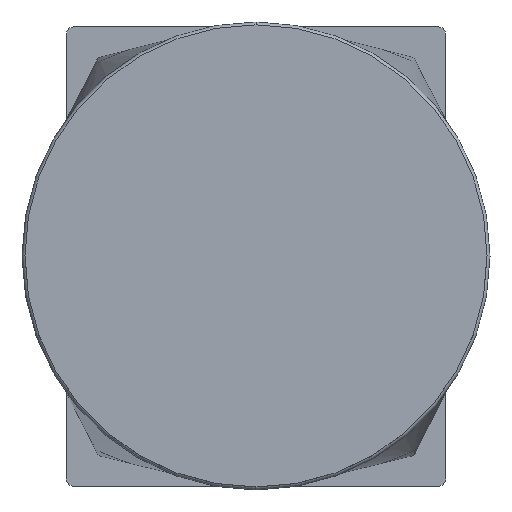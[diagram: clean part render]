
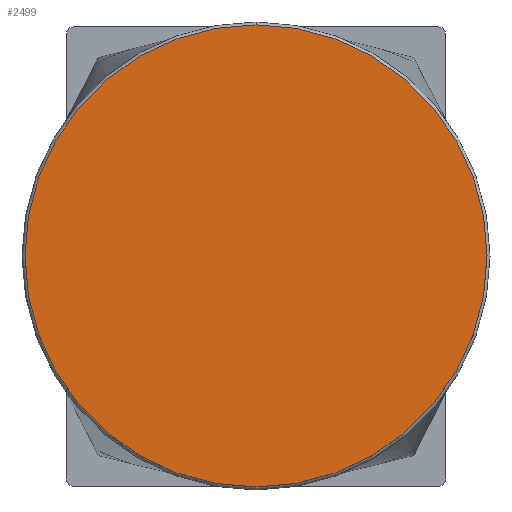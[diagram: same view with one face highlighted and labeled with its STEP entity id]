
A CAD part, top view. The second image highlights one B-rep face of the part: STEP entity #2499.
In plain terms, the highlighted planar face has unit normal (0, 0, 1).
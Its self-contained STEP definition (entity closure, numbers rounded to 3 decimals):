
#798=CARTESIAN_POINT('',(0.,0.,254.3));
#799=DIRECTION('',(0.,0.,-1.));
#800=DIRECTION('',(0.,1.,0.));
#801=AXIS2_PLACEMENT_3D('',#798,#799,#800);
#803=CARTESIAN_POINT('',(0.,0.,254.3));
#804=DIRECTION('',(0.,0.,1.));
#805=DIRECTION('',(0.,1.,0.));
#806=AXIS2_PLACEMENT_3D('',#803,#804,#805);
#841=CARTESIAN_POINT('',(0.,156.5,254.3));
#843=VERTEX_POINT('',#841);
#847=CARTESIAN_POINT('',(0.,-156.5,254.3));
#849=VERTEX_POINT('',#847);
#2490=CARTESIAN_POINT('',(0.,0.,254.3));
#2491=DIRECTION('',(0.,0.,1.));
#2492=DIRECTION('',(0.,1.,0.));
#2493=AXIS2_PLACEMENT_3D('',#2490,#2491,#2492);
#2494=PLANE('',#2493);
#2495=ORIENTED_EDGE('',*,*,#2472,.T.);
#2496=ORIENTED_EDGE('',*,*,#2483,.F.);
#2497=EDGE_LOOP('',(#2495,#2496));
#2498=FACE_OUTER_BOUND('',#2497,.F.);
#802=CIRCLE('',#801,156.5);
#807=CIRCLE('',#806,156.5);
#2472=EDGE_CURVE('',#843,#849,#802,.T.);
#2483=EDGE_CURVE('',#843,#849,#807,.T.);
#2499=ADVANCED_FACE('',(#2498),#2494,.T.);
